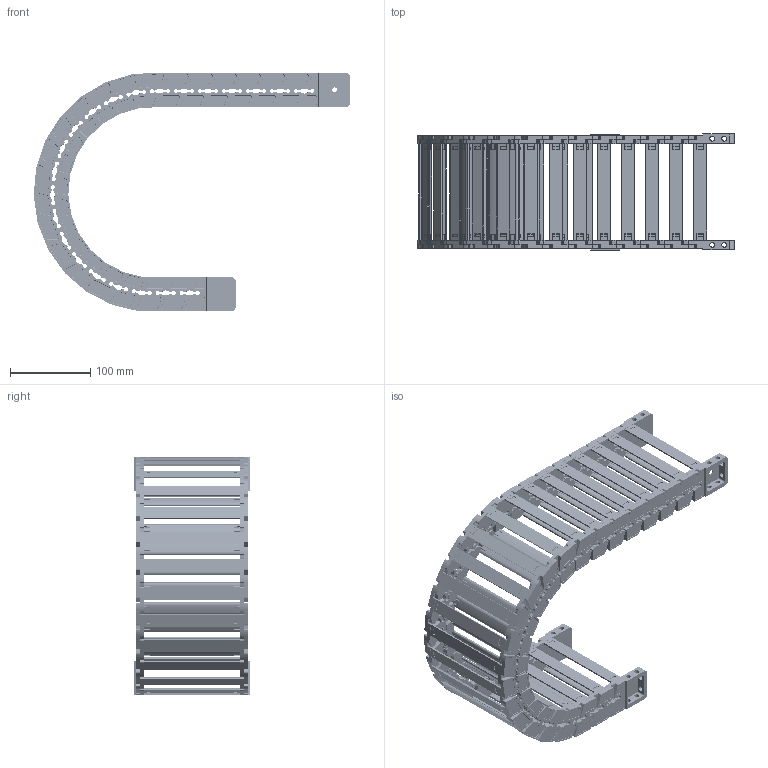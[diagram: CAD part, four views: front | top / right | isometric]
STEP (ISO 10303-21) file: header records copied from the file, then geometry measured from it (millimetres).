
FILE_DESCRIPTION((''),'2;1');
FILE_NAME('JY-35X120-R125_ASM','2025-01-05T19:47:42',('admin'),(''),'CREO PARAMETRIC BY PTC INC, 2021023','CREO PARAMETRIC BY PTC INC, 2021023','');
FILE_SCHEMA(('CONFIG_CONTROL_DESIGN'));
Length unit declared in the file: millimetre
Products named in the file (11): 35XL-L; YP; 35XL-R; ASM0001_ASM; 35-LTT-A-L; 35-LTT-A-R; 35XL-LTT-A_ASM; 35-LTT-B-L; 35-LTT-B-R; 35XL-LTT-B_ASM; JY-35X120-R125_ASM
Assembly tree (35 placements, depth 3):
  JY-35X120-R125_ASM
    ASM0001_ASM  x21
      35XL-L
      YP
      35XL-R
    35XL-LTT-A_ASM
      35-LTT-A-L
      YP  x2
      35-LTT-A-R
    35XL-LTT-B_ASM
      35-LTT-B-L
      YP  x2
      35-LTT-B-R
Bounding box: 395.09 x 144.5 x 298.23 mm (x, y, z)
Volume: 777957.3 mm3; surface area: 476156 mm2
Topology: 92 solids, 92 shells, 7504 faces, 22500 edges, 15188 vertices
Faces by surface type: plane 4246, cylinder 2466, cone 484, extrusion 176, bspline 132
Entity records: 27890 total; most frequent: CARTESIAN_POINT 6168, ORIENTED_EDGE 4640, DIRECTION 4365, EDGE_CURVE 2320, VERTEX_POINT 1568, AXIS2_PLACEMENT_3D 1474, VECTOR 1417, LINE 1401
